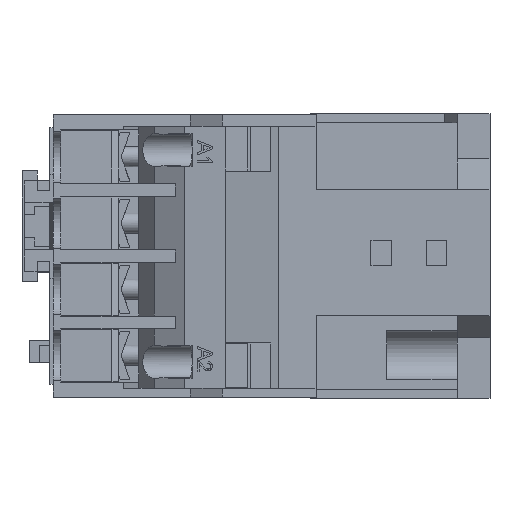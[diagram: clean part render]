
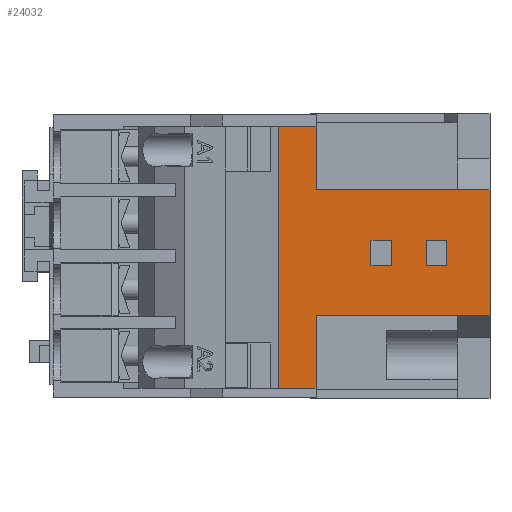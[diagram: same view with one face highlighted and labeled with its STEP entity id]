
A CAD part, left-side view. The second image highlights one B-rep face of the part: STEP entity #24032.
In plain terms, the highlighted planar face has unit normal (-1, 0, 0).
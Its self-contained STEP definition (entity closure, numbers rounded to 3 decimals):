
#49 = DIRECTION ( 'NONE',  ( 0., -1., 0. ) ) ;
#256 = LINE ( 'NONE', #2940, #14885 ) ;
#424 = CARTESIAN_POINT ( 'NONE',  ( -39.75, -28.25, 25.75 ) ) ;
#653 = DIRECTION ( 'NONE',  ( 0., 1., 0. ) ) ;
#734 = EDGE_CURVE ( 'NONE', #18205, #17405, #13175, .T. ) ;
#944 = ORIENTED_EDGE ( 'NONE', *, *, #15982, .F. ) ;
#1122 = DIRECTION ( 'NONE',  ( 0., 0., -1. ) ) ;
#1245 = VERTEX_POINT ( 'NONE', #19526 ) ;
#1249 = ORIENTED_EDGE ( 'NONE', *, *, #8143, .T. ) ;
#1305 = FACE_BOUND ( 'NONE', #6945, .T. ) ;
#1837 = DIRECTION ( 'NONE',  ( 0., 0., -1. ) ) ;
#1857 = CARTESIAN_POINT ( 'NONE',  ( -39.75, -50.15, -1.85 ) ) ;
#1897 = VECTOR ( 'NONE', #653, 1000. ) ;
#2727 = ORIENTED_EDGE ( 'NONE', *, *, #3683, .F. ) ;
#2777 = VERTEX_POINT ( 'NONE', #9702 ) ;
#2940 = CARTESIAN_POINT ( 'NONE',  ( -39.75, -62.75, 28.25 ) ) ;
#2977 = LINE ( 'NONE', #22604, #8135 ) ;
#3163 = LINE ( 'NONE', #24533, #12762 ) ;
#3279 = VERTEX_POINT ( 'NONE', #4709 ) ;
#3325 = VERTEX_POINT ( 'NONE', #23667 ) ;
#3337 = EDGE_CURVE ( 'NONE', #2777, #13580, #2977, .T. ) ;
#3356 = LINE ( 'NONE', #21976, #7903 ) ;
#3683 = EDGE_CURVE ( 'NONE', #3860, #2777, #20496, .T. ) ;
#3759 = ORIENTED_EDGE ( 'NONE', *, *, #8057, .F. ) ;
#3860 = VERTEX_POINT ( 'NONE', #11276 ) ;
#4036 = EDGE_LOOP ( 'NONE', ( #17738, #1249, #16876, #4580, #18402, #6427, #11206, #10055, #20687, #16669 ) ) ;
#4202 = EDGE_CURVE ( 'NONE', #3325, #22546, #256, .T. ) ;
#4214 = VECTOR ( 'NONE', #4937, 1000. ) ;
#4391 = CARTESIAN_POINT ( 'NONE',  ( -39.75, -43.15, 3.15 ) ) ;
#4580 = ORIENTED_EDGE ( 'NONE', *, *, #17612, .F. ) ;
#4634 = DIRECTION ( 'NONE',  ( 0., 0., 1. ) ) ;
#4645 = ORIENTED_EDGE ( 'NONE', *, *, #6279, .F. ) ;
#4709 = CARTESIAN_POINT ( 'NONE',  ( -39.75, -39.15, 3.15 ) ) ;
#4937 = DIRECTION ( 'NONE',  ( 0., -1., 0. ) ) ;
#5428 = CARTESIAN_POINT ( 'NONE',  ( -39.75, -39.15, -1.85 ) ) ;
#5473 = AXIS2_PLACEMENT_3D ( 'NONE', #23404, #17796, #6456 ) ;
#5584 = LINE ( 'NONE', #11145, #6190 ) ;
#5599 = CARTESIAN_POINT ( 'NONE',  ( -39.75, -56.25, 13.15 ) ) ;
#5693 = CARTESIAN_POINT ( 'NONE',  ( -39.75, -10.25, 25.75 ) ) ;
#5823 = LINE ( 'NONE', #22180, #20339 ) ;
#5988 = EDGE_CURVE ( 'NONE', #17947, #3325, #3163, .T. ) ;
#6074 = VERTEX_POINT ( 'NONE', #17269 ) ;
#6090 = VECTOR ( 'NONE', #15885, 1000. ) ;
#6190 = VECTOR ( 'NONE', #16811, 1000. ) ;
#6279 = EDGE_CURVE ( 'NONE', #15130, #21985, #21274, .T. ) ;
#6395 = DIRECTION ( 'NONE',  ( 0., 1., 0. ) ) ;
#6422 = LINE ( 'NONE', #14010, #1897 ) ;
#6427 = ORIENTED_EDGE ( 'NONE', *, *, #14288, .T. ) ;
#6456 = DIRECTION ( 'NONE',  ( 0., 0., 1. ) ) ;
#6483 = CARTESIAN_POINT ( 'NONE',  ( -39.75, -27.25, -11.85 ) ) ;
#6598 = VERTEX_POINT ( 'NONE', #19659 ) ;
#6675 = LINE ( 'NONE', #11686, #6090 ) ;
#6883 = VERTEX_POINT ( 'NONE', #424 ) ;
#6945 = EDGE_LOOP ( 'NONE', ( #14583, #944, #23718, #4645 ) ) ;
#7061 = CARTESIAN_POINT ( 'NONE',  ( -39.75, -50.15, 3.15 ) ) ;
#7638 = DIRECTION ( 'NONE',  ( 0., -1., 0. ) ) ;
#7662 = CARTESIAN_POINT ( 'NONE',  ( -39.75, -28.25, -11.85 ) ) ;
#7903 = VECTOR ( 'NONE', #1122, 1000. ) ;
#8057 = EDGE_CURVE ( 'NONE', #6598, #3860, #12943, .T. ) ;
#8073 = CARTESIAN_POINT ( 'NONE',  ( -39.75, -43.15, -1.85 ) ) ;
#8135 = VECTOR ( 'NONE', #22443, 1000. ) ;
#8143 = EDGE_CURVE ( 'NONE', #1245, #10103, #6675, .T. ) ;
#8699 = VERTEX_POINT ( 'NONE', #12497 ) ;
#8713 = DIRECTION ( 'NONE',  ( 0., -1., 0. ) ) ;
#9206 = EDGE_CURVE ( 'NONE', #15424, #15130, #14363, .T. ) ;
#9578 = EDGE_CURVE ( 'NONE', #8699, #10103, #20516, .T. ) ;
#9702 = CARTESIAN_POINT ( 'NONE',  ( -39.75, -54.15, -1.85 ) ) ;
#9873 = ORIENTED_EDGE ( 'NONE', *, *, #3337, .F. ) ;
#10055 = ORIENTED_EDGE ( 'NONE', *, *, #5988, .F. ) ;
#10103 = VERTEX_POINT ( 'NONE', #11073 ) ;
#10181 = DIRECTION ( 'NONE',  ( 0., 0., -1. ) ) ;
#10988 = CARTESIAN_POINT ( 'NONE',  ( -39.75, -39.15, -1.85 ) ) ;
#11007 = VECTOR ( 'NONE', #10181, 1000. ) ;
#11073 = CARTESIAN_POINT ( 'NONE',  ( -39.75, -20.722, -26.25 ) ) ;
#11145 = CARTESIAN_POINT ( 'NONE',  ( -39.75, -27.25, 13.15 ) ) ;
#11206 = ORIENTED_EDGE ( 'NONE', *, *, #4202, .F. ) ;
#11276 = CARTESIAN_POINT ( 'NONE',  ( -39.75, -50.15, -1.85 ) ) ;
#11521 = FACE_BOUND ( 'NONE', #24167, .T. ) ;
#11686 = CARTESIAN_POINT ( 'NONE',  ( -39.75, -20.722, 40.786 ) ) ;
#12497 = CARTESIAN_POINT ( 'NONE',  ( -39.75, -28.25, -26.25 ) ) ;
#12762 = VECTOR ( 'NONE', #22553, 1000. ) ;
#12943 = LINE ( 'NONE', #15313, #22351 ) ;
#13174 = CARTESIAN_POINT ( 'NONE',  ( -39.75, -28.25, -26.25 ) ) ;
#13175 = LINE ( 'NONE', #6483, #17587 ) ;
#13451 = CARTESIAN_POINT ( 'NONE',  ( -39.75, -54.15, 3.15 ) ) ;
#13580 = VERTEX_POINT ( 'NONE', #13451 ) ;
#13874 = CARTESIAN_POINT ( 'NONE',  ( -39.75, -28.25, -11.85 ) ) ;
#14003 = EDGE_CURVE ( 'NONE', #1245, #6883, #22189, .T. ) ;
#14010 = CARTESIAN_POINT ( 'NONE',  ( -39.75, -39.15, 3.15 ) ) ;
#14248 = CARTESIAN_POINT ( 'NONE',  ( -39.75, -62.75, -11.85 ) ) ;
#14288 = EDGE_CURVE ( 'NONE', #18205, #22546, #15693, .T. ) ;
#14363 = LINE ( 'NONE', #5428, #4214 ) ;
#14583 = ORIENTED_EDGE ( 'NONE', *, *, #9206, .F. ) ;
#14854 = EDGE_CURVE ( 'NONE', #13580, #6598, #17718, .T. ) ;
#14885 = VECTOR ( 'NONE', #1837, 1000. ) ;
#15130 = VERTEX_POINT ( 'NONE', #8073 ) ;
#15313 = CARTESIAN_POINT ( 'NONE',  ( -39.75, -50.15, 3.15 ) ) ;
#15383 = EDGE_CURVE ( 'NONE', #6883, #6074, #5823, .T. ) ;
#15424 = VERTEX_POINT ( 'NONE', #10988 ) ;
#15505 = VECTOR ( 'NONE', #49, 1000. ) ;
#15693 = LINE ( 'NONE', #18115, #24526 ) ;
#15885 = DIRECTION ( 'NONE',  ( 0., 0., -1. ) ) ;
#15911 = PLANE ( 'NONE',  #5473 ) ;
#15927 = FACE_OUTER_BOUND ( 'NONE', #4036, .T. ) ;
#15982 = EDGE_CURVE ( 'NONE', #3279, #15424, #3356, .T. ) ;
#15989 = VECTOR ( 'NONE', #7638, 1000. ) ;
#16109 = VECTOR ( 'NONE', #18517, 1000. ) ;
#16261 = VECTOR ( 'NONE', #4634, 1000. ) ;
#16669 = ORIENTED_EDGE ( 'NONE', *, *, #15383, .F. ) ;
#16811 = DIRECTION ( 'NONE',  ( 0., -1., 0. ) ) ;
#16876 = ORIENTED_EDGE ( 'NONE', *, *, #9578, .F. ) ;
#17269 = CARTESIAN_POINT ( 'NONE',  ( -39.75, -28.25, 13.15 ) ) ;
#17405 = VERTEX_POINT ( 'NONE', #7662 ) ;
#17587 = VECTOR ( 'NONE', #6395, 1000. ) ;
#17612 = EDGE_CURVE ( 'NONE', #17405, #8699, #22195, .T. ) ;
#17718 = LINE ( 'NONE', #7061, #22732 ) ;
#17738 = ORIENTED_EDGE ( 'NONE', *, *, #14003, .F. ) ;
#17796 = DIRECTION ( 'NONE',  ( -1., 0., 0. ) ) ;
#17878 = DIRECTION ( 'NONE',  ( 0., 0., -1. ) ) ;
#17896 = EDGE_CURVE ( 'NONE', #6074, #17947, #5584, .T. ) ;
#17947 = VERTEX_POINT ( 'NONE', #5599 ) ;
#18115 = CARTESIAN_POINT ( 'NONE',  ( -39.75, -56.25, -11.85 ) ) ;
#18205 = VERTEX_POINT ( 'NONE', #23389 ) ;
#18402 = ORIENTED_EDGE ( 'NONE', *, *, #734, .F. ) ;
#18517 = DIRECTION ( 'NONE',  ( 0., 1., 0. ) ) ;
#19526 = CARTESIAN_POINT ( 'NONE',  ( -39.75, -20.722, 25.75 ) ) ;
#19659 = CARTESIAN_POINT ( 'NONE',  ( -39.75, -50.15, 3.15 ) ) ;
#20290 = DIRECTION ( 'NONE',  ( 0., 1., 0. ) ) ;
#20339 = VECTOR ( 'NONE', #24064, 1000. ) ;
#20496 = LINE ( 'NONE', #1857, #15505 ) ;
#20516 = LINE ( 'NONE', #13174, #16109 ) ;
#20587 = ORIENTED_EDGE ( 'NONE', *, *, #14854, .F. ) ;
#20687 = ORIENTED_EDGE ( 'NONE', *, *, #17896, .F. ) ;
#21274 = LINE ( 'NONE', #4391, #16261 ) ;
#21976 = CARTESIAN_POINT ( 'NONE',  ( -39.75, -39.15, 3.15 ) ) ;
#21985 = VERTEX_POINT ( 'NONE', #22286 ) ;
#22180 = CARTESIAN_POINT ( 'NONE',  ( -39.75, -28.25, 28.25 ) ) ;
#22189 = LINE ( 'NONE', #5693, #15989 ) ;
#22195 = LINE ( 'NONE', #13874, #11007 ) ;
#22286 = CARTESIAN_POINT ( 'NONE',  ( -39.75, -43.15, 3.15 ) ) ;
#22351 = VECTOR ( 'NONE', #17878, 1000. ) ;
#22443 = DIRECTION ( 'NONE',  ( 0., 0., 1. ) ) ;
#22546 = VERTEX_POINT ( 'NONE', #14248 ) ;
#22553 = DIRECTION ( 'NONE',  ( 0., -1., 0. ) ) ;
#22604 = CARTESIAN_POINT ( 'NONE',  ( -39.75, -54.15, 3.15 ) ) ;
#22732 = VECTOR ( 'NONE', #20290, 1000. ) ;
#23389 = CARTESIAN_POINT ( 'NONE',  ( -39.75, -56.25, -11.85 ) ) ;
#23404 = CARTESIAN_POINT ( 'NONE',  ( -39.75, -8.25, -28.25 ) ) ;
#23667 = CARTESIAN_POINT ( 'NONE',  ( -39.75, -62.75, 13.15 ) ) ;
#23718 = ORIENTED_EDGE ( 'NONE', *, *, #24028, .F. ) ;
#24028 = EDGE_CURVE ( 'NONE', #21985, #3279, #6422, .T. ) ;
#24032 = ADVANCED_FACE ( 'NONE', ( #15927, #1305, #11521 ), #15911, .T. ) ;
#24064 = DIRECTION ( 'NONE',  ( 0., 0., -1. ) ) ;
#24167 = EDGE_LOOP ( 'NONE', ( #2727, #3759, #20587, #9873 ) ) ;
#24526 = VECTOR ( 'NONE', #8713, 1000. ) ;
#24533 = CARTESIAN_POINT ( 'NONE',  ( -39.75, -56.25, 13.15 ) ) ;
